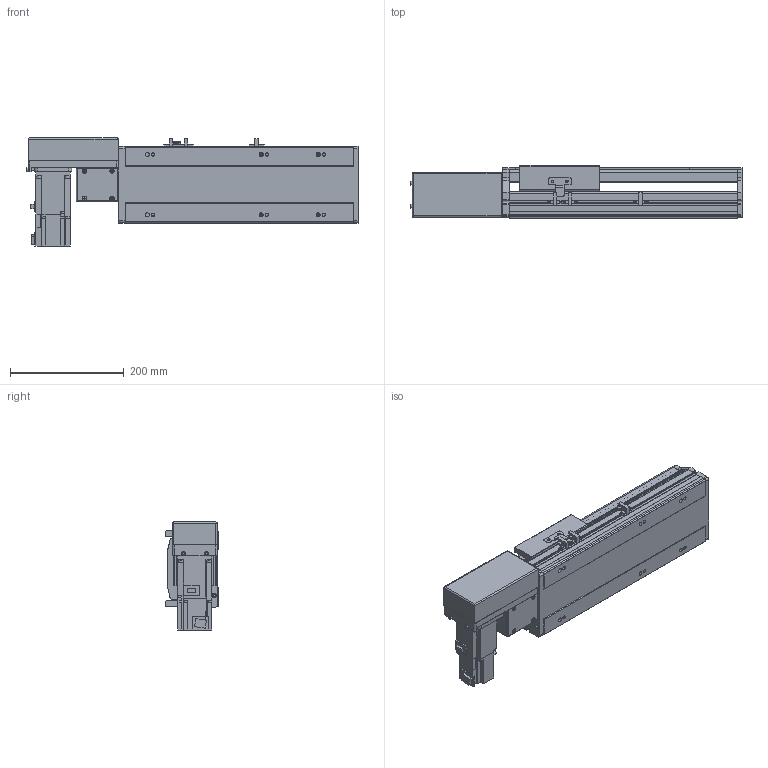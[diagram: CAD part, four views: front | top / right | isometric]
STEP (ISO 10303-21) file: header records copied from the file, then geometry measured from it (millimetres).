
FILE_DESCRIPTION( ( 'STEP AP214' ), '1' );
FILE_NAME( 'x:/temp/worker_6/temp/exporttempdir_5396_46_wfs3W/format_0/PBS140S-P40-S150-R-T40-C1-N(0).stp', '2022-06-09T00:11:51', ( 'License CC BY-ND 4.0' ), ( 'CADENAS' ), ' ', 'PARTsolutions', ' ' );
FILE_SCHEMA( ( 'AUTOMOTIVE_DESIGN { 1 0 10303 214 1 1 1 1 }' ) );
Length unit declared in the file: millimetre
Products named in the file (7): PBS140S-P40-S150-R-T40-C1-N(0); _PBS140S-S150()_body; _PBS140ST-R_motors; _T40-p1; _PBS140S_sliser; _PBS140S_plant; _PBS140S_sensor
Assembly tree (8 placements, depth 2):
  PBS140S-P40-S150-R-T40-C1-N(0)
    _PBS140S-S150()_body
    _PBS140ST-R_motors
    _T40-p1
    _PBS140S_sliser
    _PBS140S_plant
    _PBS140S_sensor  x3
Bounding box: 583 x 93 x 189.7 mm (x, y, z)
Volume: 3168301.7 mm3; surface area: 585912.2 mm2
Topology: 8 solids, 8 shells, 1019 faces, 2711 edges, 1775 vertices
Faces by surface type: plane 672, cylinder 305, cone 32, sphere 8, torus 2
Full cylindrical faces by diameter (mm): 3.242 x4, 4 x2, 4.134 x4, 4.4 x8, 4.5 x2, 4.8 x4, 4.917 x14, 5.5 x7, 6 x2, 7 x8, 7.5 x8, 8 x12, 8.5 x4, 10.5 x6, 14 x1, 30 x2, 50 x2
Entity records: 37126 total; most frequent: CARTESIAN_POINT 5566, DIRECTION 4998, ORIENTED_EDGE 4762, EDGE_CURVE 2381, AXIS2_PLACEMENT_3D 1709, VERTEX_POINT 1633, LINE 1580, VECTOR 1580
